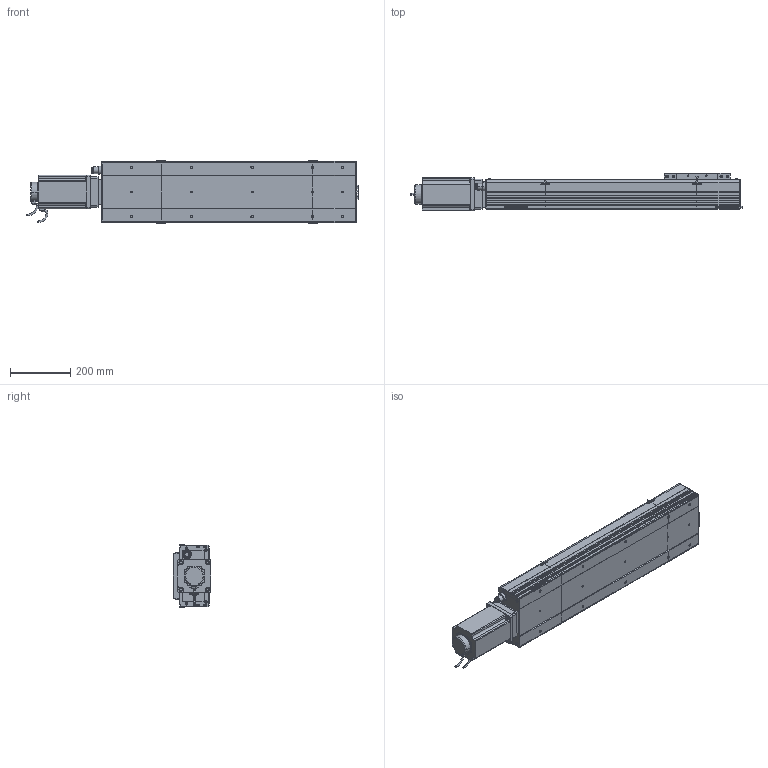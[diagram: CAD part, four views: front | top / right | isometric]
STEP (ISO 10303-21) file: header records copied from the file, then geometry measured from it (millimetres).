
FILE_DESCRIPTION (( 'STEP AP214' ), '1' );
FILE_NAME ('D20 CSH MD S500.STEP', '2010-06-30T07:59:22', ( 'Conseil Régional Haute-Normandie' ), ( 'Conseil Régional Haute-Normandie' ), 'SwSTEP 2.0', 'SolidWorks 2010', '' );
FILE_SCHEMA (( 'AUTOMOTIVE_DESIGN' ));
Length unit declared in the file: millimetre
Products named in the file (28): Couvercle_Default; Support Chariot D20_Default; Chariot D20_Default; clavette; Conecteur_Default; Conecteur2_Default; codeur 110BLDC170A-630x; corps 110BLDC170A-630x; avant 110BLDC170A-630x; Plaque de Bout Tail D20_Default; Moteur motionking 110BLDC170A-640x; Plaque De Serrage D20_Default; vis M8 L15_Default; Plaque racord D20_Default; Corp S500_Default; Corp D20 S500_Default; Plaque De Serrage Head D20_Default; Plaque de Bout Head D20_Default; Couvercle Head_Default; Couvercle S500_Default; Corp Head D20_Default; Head D20 MD_Default; Glissiere_Default; vis M5 L15_Default; Corp Tail D20+100_Default; Tail D20+100_Default; D20 CSH MD S500
Assembly tree (53 placements, depth 4):
  D20 CSH MD S500
    Head D20 MD_Default
      vis M5 L15_Default  x10
      Plaque racord D20_Default
      Plaque de Bout Head D20_Default
      vis M8 L15_Default  x4
      Plaque De Serrage Head D20_Default
      Couvercle Head_Default
      Corp Head D20_Default
      Moteur motionking 110BLDC170A-640x
        Conecteur_Default
        avant 110BLDC170A-630x
        codeur 110BLDC170A-630x
        clavette
        Conecteur2_Default
        corps 110BLDC170A-630x
    Corp D20 S500_Default
      Couvercle S500_Default
      Corp S500_Default
    Tail D20+100_Default
      vis M5 L15_Default  x6
      Couvercle_Default
      Corp Tail D20+100_Default
      Plaque De Serrage D20_Default
      Plaque de Bout Tail D20_Default
    Chariot D20_Default
      vis M5 L15_Default  x8
      Chariot D20_Default
      Glissiere_Default
      Support Chariot D20_Default
Bounding box: 1099 x 125.5 x 206 mm (x, y, z)
Volume: 8336293.4 mm3; surface area: 1457950.9 mm2
Topology: 90 solids, 90 shells, 3397 faces, 8573 edges, 5601 vertices
Faces by surface type: plane 1938, bspline 758, cylinder 563, torus 79, cone 59
Entity records: 152547 total; most frequent: CARTESIAN_POINT 79292, ORIENTED_EDGE 14542, DIRECTION 10811, EDGE_CURVE 7271, VERTEX_POINT 4821, LINE 4787, VECTOR 4787, EDGE_LOOP 3072
